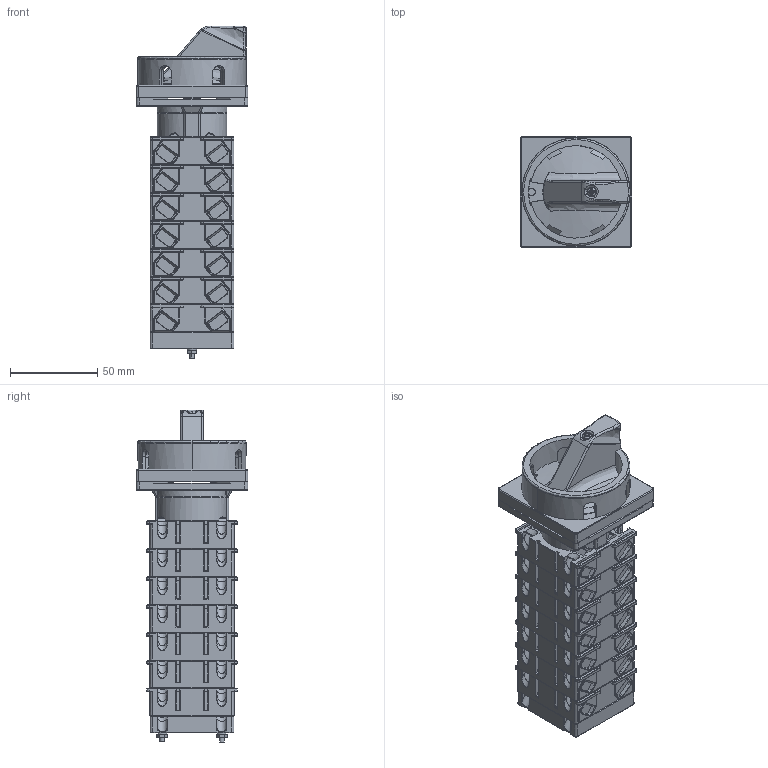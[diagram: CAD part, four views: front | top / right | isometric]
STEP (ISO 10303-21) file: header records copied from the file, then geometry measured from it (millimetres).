
FILE_DESCRIPTION (( 'STEP AP214' ), '1' );
FILE_NAME ('Ïåðåêëþ÷àòåëü 4G16,25-XXXX-U-S6,S25 7ê.STEP', '2022-11-28T12:03:20', ( '' ), ( '' ), 'SwSTEP 2.0', 'SolidWorks 2018', '' );
FILE_SCHEMA (( 'AUTOMOTIVE_DESIGN' ));
Length unit declared in the file: millimetre
Products named in the file (1): Ïåðåêëþ÷àòåëü 4G16,25-XXXX-U-S6,S25 7ê
Bounding box: 64 x 64 x 190.3 mm (x, y, z)
Volume: 339035.6 mm3; surface area: 146284.9 mm2
Topology: 26 solids, 82 shells, 6944 faces, 18287 edges, 11573 vertices
Faces by surface type: plane 3958, cylinder 2149, torus 355, cone 284, bspline 125, sphere 73
Entity records: 301772 total; most frequent: CARTESIAN_POINT 55665, ORIENTED_EDGE 36448, DIRECTION 34279, EDGE_CURVE 18224, LINE 12575, VECTOR 12575, VERTEX_POINT 11561, AXIS2_PLACEMENT_3D 10852
